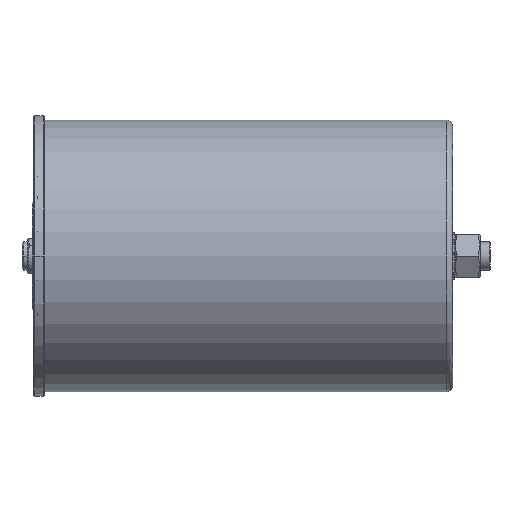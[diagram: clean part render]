
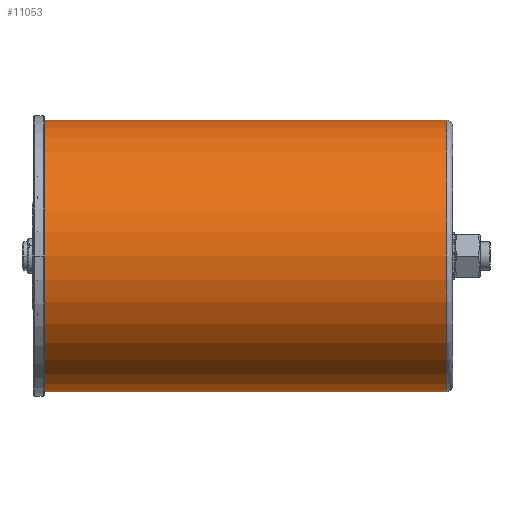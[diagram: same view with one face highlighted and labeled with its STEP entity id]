
A CAD part, left-side view. The second image highlights one B-rep face of the part: STEP entity #11053.
In plain terms, the highlighted cylindrical face has radius 58 mm (diameter 116 mm), a partial arc.
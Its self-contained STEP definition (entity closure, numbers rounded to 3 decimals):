
#397 = LINE ( 'NONE', #11513, #6399 ) ;
#459 = DIRECTION ( 'NONE',  ( 0., 0., -1. ) ) ;
#1034 = ORIENTED_EDGE ( 'NONE', *, *, #6590, .F. ) ;
#1110 = CARTESIAN_POINT ( 'NONE',  ( 0., -177.4, 58. ) ) ;
#1256 = EDGE_CURVE ( 'NONE', #7341, #8972, #4884, .T. ) ;
#1270 = CARTESIAN_POINT ( 'NONE',  ( 0., -174.9, -58. ) ) ;
#2131 = EDGE_CURVE ( 'NONE', #7884, #3513, #4109, .T. ) ;
#2351 = CARTESIAN_POINT ( 'NONE',  ( 0., -0.6, 0. ) ) ;
#2782 = ORIENTED_EDGE ( 'NONE', *, *, #2131, .T. ) ;
#3230 = AXIS2_PLACEMENT_3D ( 'NONE', #11038, #9970, #459 ) ;
#3513 = VERTEX_POINT ( 'NONE', #5937 ) ;
#4109 = CIRCLE ( 'NONE', #5015, 58. ) ;
#4219 = DIRECTION ( 'NONE',  ( 0., 1., 0. ) ) ;
#4604 = EDGE_LOOP ( 'NONE', ( #1034, #2782, #11754, #11260 ) ) ;
#4884 = CIRCLE ( 'NONE', #9384, 58. ) ;
#4971 = DIRECTION ( 'NONE',  ( 0., -1., 0. ) ) ;
#5015 = AXIS2_PLACEMENT_3D ( 'NONE', #2351, #7101, #9830 ) ;
#5260 = FACE_OUTER_BOUND ( 'NONE', #4604, .T. ) ;
#5808 = DIRECTION ( 'NONE',  ( 0., -1., 0. ) ) ;
#5937 = CARTESIAN_POINT ( 'NONE',  ( 0., -0.6, -58. ) ) ;
#6399 = VECTOR ( 'NONE', #5808, 1000. ) ;
#6560 = EDGE_CURVE ( 'NONE', #3513, #7341, #397, .T. ) ;
#6590 = EDGE_CURVE ( 'NONE', #7884, #8972, #8658, .T. ) ;
#7101 = DIRECTION ( 'NONE',  ( 0., -1., 0. ) ) ;
#7188 = DIRECTION ( 'NONE',  ( 0., 0., -1. ) ) ;
#7341 = VERTEX_POINT ( 'NONE', #1270 ) ;
#7884 = VERTEX_POINT ( 'NONE', #8044 ) ;
#8044 = CARTESIAN_POINT ( 'NONE',  ( 0., -0.6, 58. ) ) ;
#8658 = LINE ( 'NONE', #1110, #9562 ) ;
#8972 = VERTEX_POINT ( 'NONE', #11220 ) ;
#9384 = AXIS2_PLACEMENT_3D ( 'NONE', #9961, #4219, #7188 ) ;
#9562 = VECTOR ( 'NONE', #4971, 1000. ) ;
#9830 = DIRECTION ( 'NONE',  ( 0., 0., -1. ) ) ;
#9961 = CARTESIAN_POINT ( 'NONE',  ( 0., -174.9, 0. ) ) ;
#9970 = DIRECTION ( 'NONE',  ( 0., -1., 0. ) ) ;
#10501 = CYLINDRICAL_SURFACE ( 'NONE', #3230, 58. ) ;
#11038 = CARTESIAN_POINT ( 'NONE',  ( 0., -177.4, 0. ) ) ;
#11053 = ADVANCED_FACE ( 'NONE', ( #5260 ), #10501, .T. ) ;
#11220 = CARTESIAN_POINT ( 'NONE',  ( 0., -174.9, 58. ) ) ;
#11260 = ORIENTED_EDGE ( 'NONE', *, *, #1256, .T. ) ;
#11513 = CARTESIAN_POINT ( 'NONE',  ( 0., -177.4, -58. ) ) ;
#11754 = ORIENTED_EDGE ( 'NONE', *, *, #6560, .T. ) ;
